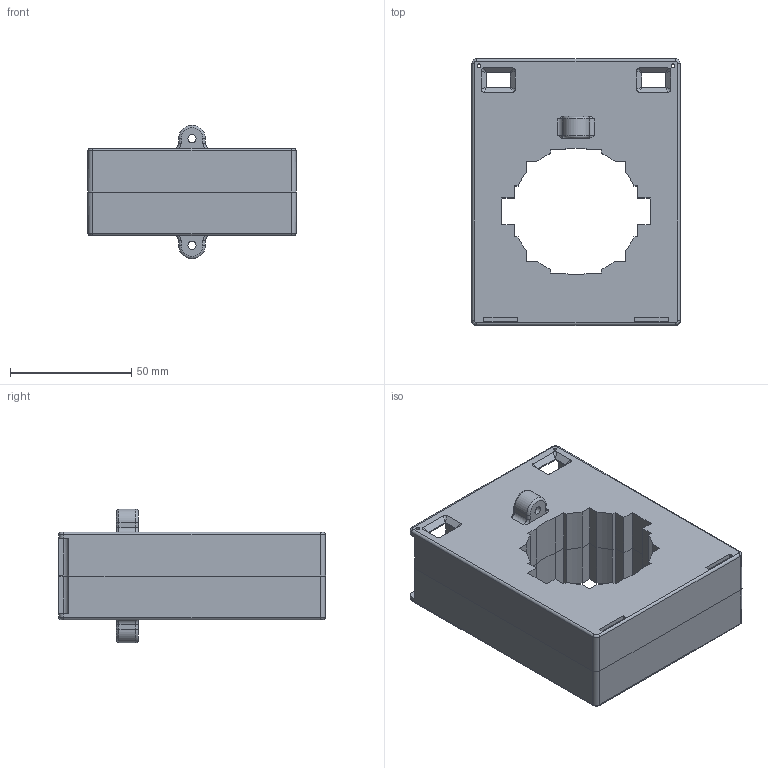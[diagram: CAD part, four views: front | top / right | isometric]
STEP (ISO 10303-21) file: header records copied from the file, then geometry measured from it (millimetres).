
FILE_DESCRIPTION(/* description */ (''),/* implementation_level */ '2;1');
FILE_NAME(/* name */ 'TU60-PS.stp',/* time_stamp */ '2024-09-27T10:20:01+08:00',/* author */ (''),/* organization */ (''),/* preprocessor_version */ 'ST-DEVELOPER v18.102',/* originating_system */ 'SIEMENS PLM Software NX2206.1700',/* authorisation */ '');
FILE_SCHEMA (('AUTOMOTIVE_DESIGN { 1 0 10303 214 3 1 1 1 }'));
Length unit declared in the file: millimetre
Products named in the file (1): TU60-PS_objects
Bounding box: 86 x 110.02 x 55 mm (x, y, z)
Volume: 73742.9 mm3; surface area: 73856.1 mm2
Topology: 2 solids, 2 shells, 790 faces, 2248 edges, 1468 vertices
Faces by surface type: plane 604, cylinder 142, bspline 28, torus 12, extrusion 4
Full cylindrical faces by diameter (mm): 1.5 x4, 1.7 x4, 3.3 x2, 4.2 x2
Entity records: 26102 total; most frequent: CARTESIAN_POINT 5611, ORIENTED_EDGE 4432, DIRECTION 3994, EDGE_CURVE 2216, VECTOR 1804, LINE 1800, VERTEX_POINT 1464, AXIS2_PLACEMENT_3D 1095
